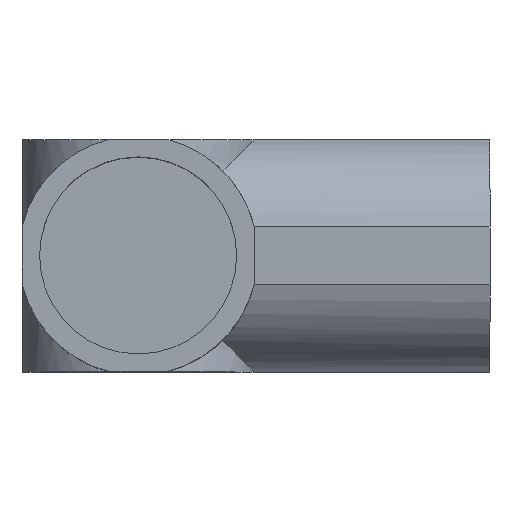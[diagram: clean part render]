
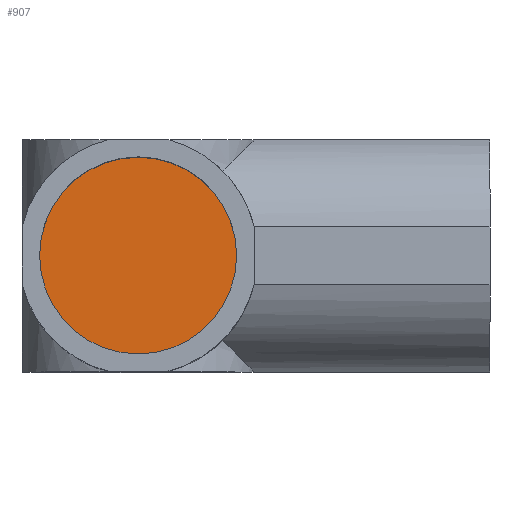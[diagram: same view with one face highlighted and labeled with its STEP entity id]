
A CAD part, top view. The second image highlights one B-rep face of the part: STEP entity #907.
In plain terms, the highlighted planar face has unit normal (0, 0, 1).
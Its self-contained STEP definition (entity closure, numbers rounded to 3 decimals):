
#24 = VERTEX_POINT ( 'NONE', #340 ) ;
#104 = EDGE_CURVE ( 'NONE', #24, #1147, #270, .T. ) ;
#157 = DIRECTION ( 'NONE',  ( 1., 0., 0. ) ) ;
#270 = CIRCLE ( 'NONE', #1077, 14. ) ;
#340 = CARTESIAN_POINT ( 'NONE',  ( 14., 0., 20. ) ) ;
#411 = CARTESIAN_POINT ( 'NONE',  ( 0., 0., 20. ) ) ;
#418 = EDGE_LOOP ( 'NONE', ( #787, #460 ) ) ;
#427 = DIRECTION ( 'NONE',  ( 0., 0., 1. ) ) ;
#460 = ORIENTED_EDGE ( 'NONE', *, *, #1095, .T. ) ;
#512 = FACE_OUTER_BOUND ( 'NONE', #418, .T. ) ;
#623 = PLANE ( 'NONE',  #744 ) ;
#700 = DIRECTION ( 'NONE',  ( 0., 0., 1. ) ) ;
#744 = AXIS2_PLACEMENT_3D ( 'NONE', #411, #427, #1143 ) ;
#787 = ORIENTED_EDGE ( 'NONE', *, *, #104, .T. ) ;
#799 = DIRECTION ( 'NONE',  ( 1., 0., 0. ) ) ;
#907 = ADVANCED_FACE ( 'NONE', ( #512 ), #623, .T. ) ;
#1016 = CARTESIAN_POINT ( 'NONE',  ( 0., 0., 20. ) ) ;
#1053 = AXIS2_PLACEMENT_3D ( 'NONE', #1287, #1281, #157 ) ;
#1077 = AXIS2_PLACEMENT_3D ( 'NONE', #1016, #700, #799 ) ;
#1094 = CIRCLE ( 'NONE', #1053, 14. ) ;
#1095 = EDGE_CURVE ( 'NONE', #1147, #24, #1094, .T. ) ;
#1143 = DIRECTION ( 'NONE',  ( 1., 0., 0. ) ) ;
#1147 = VERTEX_POINT ( 'NONE', #1199 ) ;
#1199 = CARTESIAN_POINT ( 'NONE',  ( -14., 0., 20. ) ) ;
#1281 = DIRECTION ( 'NONE',  ( 0., 0., 1. ) ) ;
#1287 = CARTESIAN_POINT ( 'NONE',  ( 0., 0., 20. ) ) ;
